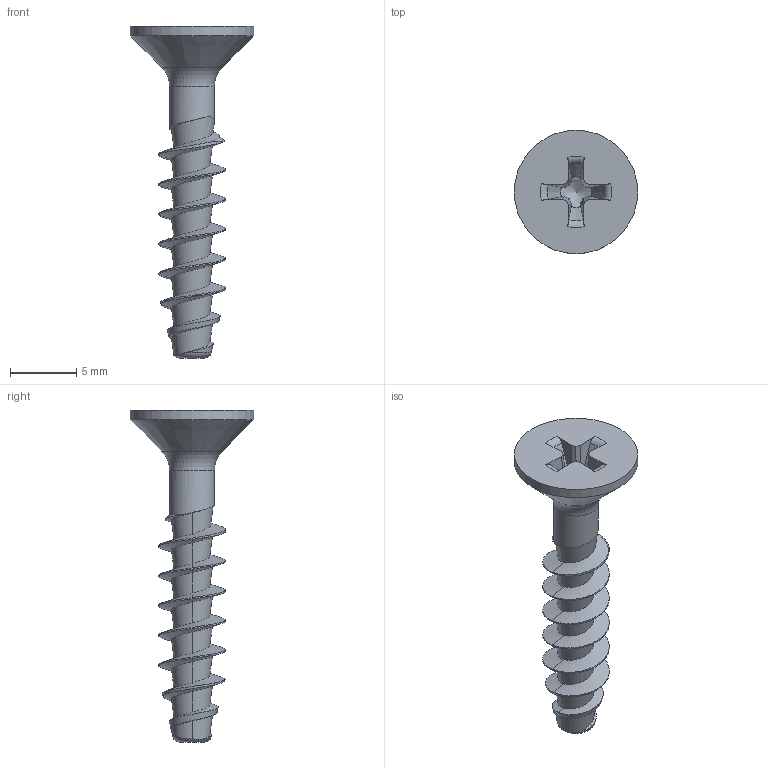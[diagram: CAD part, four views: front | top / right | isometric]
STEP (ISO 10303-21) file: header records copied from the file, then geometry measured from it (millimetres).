
FILE_DESCRIPTION(/* description */ (''),/* implementation_level */ '2;1');
FILE_NAME(/* name */ 'KN1033-STS-Neu-50x25-H2.step',/* time_stamp */ '2019-01-09T15:50:36+01:00',/* author */ (''),/* organization */ (''),/* preprocessor_version */ 'ST-DEVELOPER v16',/* originating_system */ 'SIEMENS PLM Software NX 10.0',/* authorisation */ '');
FILE_SCHEMA (('AUTOMOTIVE_DESIGN { 1 0 10303 214 3 1 1 1 }'));
Length unit declared in the file: millimetre
Products named in the file (1): KN1033-STS-Neu-50x25-H2
Bounding box: 9.3 x 9.3 x 25 mm (x, y, z)
Volume: 318.1 mm3; surface area: 548.3 mm2
Topology: 1 solids, 1 shells, 62 faces, 162 edges, 102 vertices
Faces by surface type: bspline 26, plane 18, cone 8, torus 6, cylinder 4
Full cylindrical faces by diameter (mm): 3.39 x1, 9.3 x1
Entity records: 3414 total; most frequent: CARTESIAN_POINT 2162, ORIENTED_EDGE 298, DIRECTION 165, EDGE_CURVE 149, VERTEX_POINT 97, B_SPLINE_CURVE_WITH_KNOTS 77, EDGE_LOOP 67, ADVANCED_FACE 61
